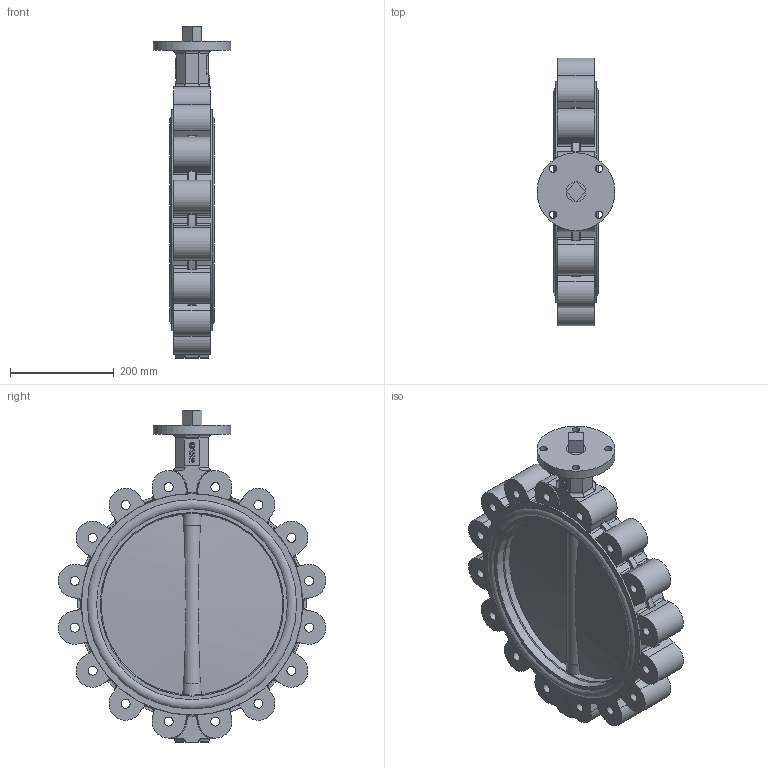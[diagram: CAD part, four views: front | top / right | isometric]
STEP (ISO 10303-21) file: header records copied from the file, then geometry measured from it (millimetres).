
FILE_DESCRIPTION(('STEP AP242'), '1');
FILE_NAME('Ïîâîðîòíûé çàòâîð ïîä ýëåêòðîïðèâîä', '', ('UNSPECIFIED'), ('UNSPECIFIED'), 'C3D Converter', 'C3D Toolkit', '');
FILE_SCHEMA(('AP242_MANAGED_MODEL_BASED_3D_ENGINEERING_MIM_LF { 1 0 10303 442 1 1 4 }'));
Length unit declared in the file: millimetre
Products named in the file (6): П
Assembly tree (6 placements, depth 2):
  (unnamed)
    (unnamed)
    П  x2
    (unnamed)
    (unnamed)
    (unnamed)
Bounding box: 150 x 515.15 x 639 mm (x, y, z)
Volume: 9257264.5 mm3; surface area: 1201487.3 mm2
Topology: 6 solids, 6 shells, 778 faces, 2041 edges, 1306 vertices
Faces by surface type: plane 278, cylinder 232, extrusion 157, torus 103, cone 4, sphere 4
Full cylindrical faces by diameter (mm): 11.421 x1, 14 x4, 17.294 x16, 27 x5, 29.7 x1, 37.05 x4, 38.184 x5, 150 x1, 350 x1, 353.5 x2, 367.5 x2, 385.083 x4, 402.667 x4, 426 x2
Entity records: 30130 total; most frequent: CARTESIAN_POINT 9077, ORIENTED_EDGE 3950, DIRECTION 3562, EDGE_CURVE 1975, VERTEX_POINT 1301, AXIS2_PLACEMENT_3D 1236, VECTOR 1090, LINE 933
